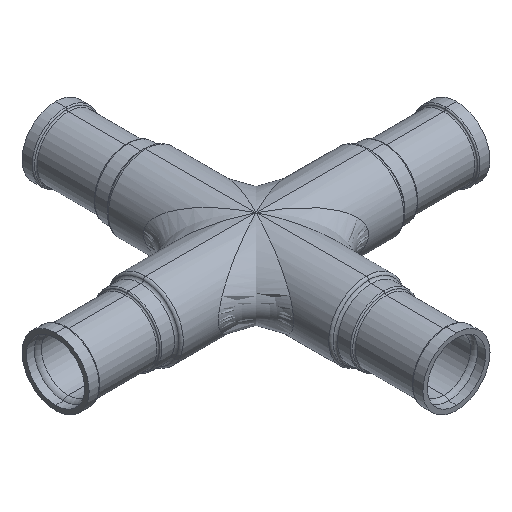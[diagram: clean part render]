
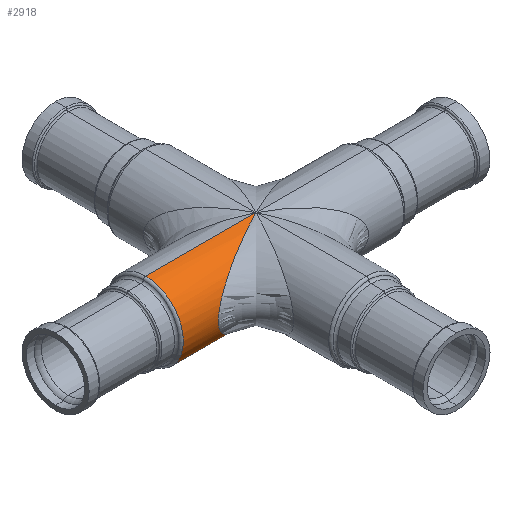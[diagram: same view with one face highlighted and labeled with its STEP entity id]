
A CAD part, isometric view. The second image highlights one B-rep face of the part: STEP entity #2918.
In plain terms, the highlighted cylindrical face has radius 15 mm (diameter 30 mm), a partial arc.
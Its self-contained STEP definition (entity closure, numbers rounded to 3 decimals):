
#99 = CARTESIAN_POINT ( 'NONE',  ( -43.98, 0., -15. ) ) ;
#120 = ORIENTED_EDGE ( 'NONE', *, *, #2526, .F. ) ;
#177 = CARTESIAN_POINT ( 'NONE',  ( -43.907, 0., -15. ) ) ;
#244 = AXIS2_PLACEMENT_3D ( 'NONE', #5466, #3795, #5082 ) ;
#527 = CARTESIAN_POINT ( 'NONE',  ( -43.907, 0., 15. ) ) ;
#564 = CARTESIAN_POINT ( 'NONE',  ( -43.98, 0., 0. ) ) ;
#696 = CARTESIAN_POINT ( 'NONE',  ( 0., 0., -15. ) ) ;
#768 = VECTOR ( 'NONE', #1911, 1000. ) ;
#1078 =( BOUNDED_CURVE ( )  B_SPLINE_CURVE ( 3, ( #4023, #5362, #4460, #696 ),
 .UNSPECIFIED., .F., .F. ) 
 B_SPLINE_CURVE_WITH_KNOTS ( ( 4, 4 ),
 ( 4.712, 7.854 ),
 .UNSPECIFIED. ) 
 CURVE ( )  GEOMETRIC_REPRESENTATION_ITEM ( )  RATIONAL_B_SPLINE_CURVE ( ( 1., 0.333, 0.333, 1. ) ) 
 REPRESENTATION_ITEM ( '' )  );
#1142 = CIRCLE ( 'NONE', #3764, 15. ) ;
#1280 = CYLINDRICAL_SURFACE ( 'NONE', #244, 15. ) ;
#1390 = DIRECTION ( 'NONE',  ( -1., 0., 0. ) ) ;
#1416 = FACE_OUTER_BOUND ( 'NONE', #1986, .T. ) ;
#1474 = VERTEX_POINT ( 'NONE', #99 ) ;
#1495 = EDGE_CURVE ( 'NONE', #4542, #4811, #3174, .T. ) ;
#1862 = CARTESIAN_POINT ( 'NONE',  ( 0., 0., 15. ) ) ;
#1911 = DIRECTION ( 'NONE',  ( -1., 0., 0. ) ) ;
#1986 = EDGE_LOOP ( 'NONE', ( #120, #2061, #5002, #2919 ) ) ;
#2061 = ORIENTED_EDGE ( 'NONE', *, *, #3185, .F. ) ;
#2123 = CARTESIAN_POINT ( 'NONE',  ( 0., 0., -15. ) ) ;
#2435 = VECTOR ( 'NONE', #1390, 1000. ) ;
#2526 = EDGE_CURVE ( 'NONE', #3470, #1474, #5421, .T. ) ;
#2808 = CARTESIAN_POINT ( 'NONE',  ( -43.98, 0., 15. ) ) ;
#2918 = ADVANCED_FACE ( 'NONE', ( #1416 ), #1280, .T. ) ;
#2919 = ORIENTED_EDGE ( 'NONE', *, *, #4587, .T. ) ;
#3103 = DIRECTION ( 'NONE',  ( 1., 0., 0. ) ) ;
#3174 = LINE ( 'NONE', #527, #2435 ) ;
#3185 = EDGE_CURVE ( 'NONE', #4542, #3470, #1078, .T. ) ;
#3470 = VERTEX_POINT ( 'NONE', #2123 ) ;
#3568 = DIRECTION ( 'NONE',  ( 0., 0., -1. ) ) ;
#3764 = AXIS2_PLACEMENT_3D ( 'NONE', #564, #3103, #3568 ) ;
#3795 = DIRECTION ( 'NONE',  ( -1., 0., 0. ) ) ;
#4023 = CARTESIAN_POINT ( 'NONE',  ( 0., 0., 15. ) ) ;
#4460 = CARTESIAN_POINT ( 'NONE',  ( -60., -30., -15. ) ) ;
#4542 = VERTEX_POINT ( 'NONE', #1862 ) ;
#4587 = EDGE_CURVE ( 'NONE', #4811, #1474, #1142, .T. ) ;
#4811 = VERTEX_POINT ( 'NONE', #2808 ) ;
#5002 = ORIENTED_EDGE ( 'NONE', *, *, #1495, .T. ) ;
#5082 = DIRECTION ( 'NONE',  ( 0., 0., 1. ) ) ;
#5362 = CARTESIAN_POINT ( 'NONE',  ( -60., -30., 15. ) ) ;
#5421 = LINE ( 'NONE', #177, #768 ) ;
#5466 = CARTESIAN_POINT ( 'NONE',  ( -43.907, 0., 0. ) ) ;
